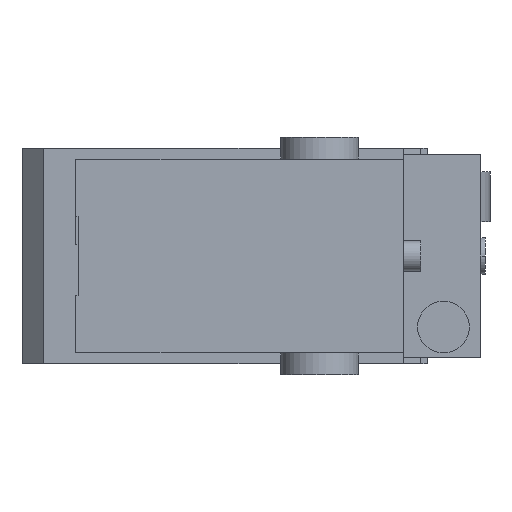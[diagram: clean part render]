
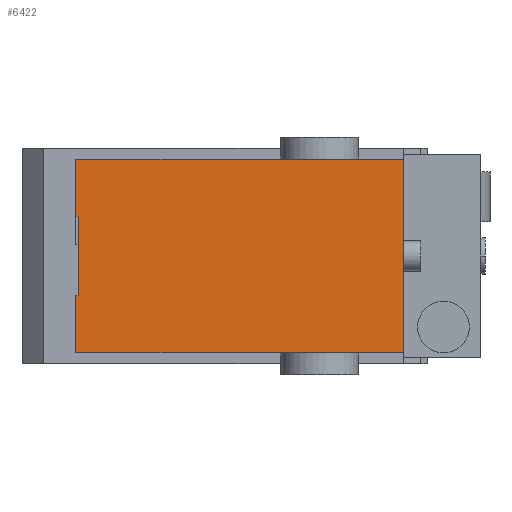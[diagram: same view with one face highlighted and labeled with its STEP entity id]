
A CAD part, front view. The second image highlights one B-rep face of the part: STEP entity #6422.
In plain terms, the highlighted planar face has unit normal (0, -1, 0).
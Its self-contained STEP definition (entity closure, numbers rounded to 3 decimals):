
#107 = CARTESIAN_POINT ( 'NONE',  ( -34.5, -183., -22.5 ) ) ;
#292 = ORIENTED_EDGE ( 'NONE', *, *, #8546, .F. ) ;
#307 = ORIENTED_EDGE ( 'NONE', *, *, #9683, .F. ) ;
#450 = ORIENTED_EDGE ( 'NONE', *, *, #5022, .F. ) ;
#671 = LINE ( 'NONE', #7035, #6961 ) ;
#687 = VECTOR ( 'NONE', #1149, 1000. ) ;
#1149 = DIRECTION ( 'NONE',  ( 0., 0., 1. ) ) ;
#1283 = PLANE ( 'NONE',  #12422 ) ;
#1324 = DIRECTION ( 'NONE',  ( 0., 0., -1. ) ) ;
#1408 = CARTESIAN_POINT ( 'NONE',  ( -34., -183., -9.25 ) ) ;
#1457 = VERTEX_POINT ( 'NONE', #1408 ) ;
#1524 = CARTESIAN_POINT ( 'NONE',  ( -34.5, -183., -22.5 ) ) ;
#1554 = VECTOR ( 'NONE', #4159, 1000. ) ;
#1681 = LINE ( 'NONE', #6191, #4972 ) ;
#1962 = DIRECTION ( 'NONE',  ( 1., 0., 0. ) ) ;
#2447 = VERTEX_POINT ( 'NONE', #5266 ) ;
#2706 = CARTESIAN_POINT ( 'NONE',  ( -34.5, -183., 9.25 ) ) ;
#2784 = LINE ( 'NONE', #7330, #10151 ) ;
#3002 = FACE_OUTER_BOUND ( 'NONE', #3597, .T. ) ;
#3058 = CARTESIAN_POINT ( 'NONE',  ( -34.5, -183., 22.5 ) ) ;
#3173 = DIRECTION ( 'NONE',  ( 0., 0., 1. ) ) ;
#3597 = EDGE_LOOP ( 'NONE', ( #450, #292, #11629, #6827, #307, #4096, #5126, #9192 ) ) ;
#3792 = EDGE_CURVE ( 'NONE', #12086, #1457, #1681, .T. ) ;
#3799 = VERTEX_POINT ( 'NONE', #3058 ) ;
#3869 = CARTESIAN_POINT ( 'NONE',  ( 41.5, -183., 22.5 ) ) ;
#4096 = ORIENTED_EDGE ( 'NONE', *, *, #7236, .F. ) ;
#4159 = DIRECTION ( 'NONE',  ( 1., 0., 0. ) ) ;
#4433 = CARTESIAN_POINT ( 'NONE',  ( 41.5, -183., -22.5 ) ) ;
#4658 = VERTEX_POINT ( 'NONE', #3869 ) ;
#4890 = EDGE_CURVE ( 'NONE', #4658, #9930, #671, .T. ) ;
#4972 = VECTOR ( 'NONE', #1962, 1000. ) ;
#5022 = EDGE_CURVE ( 'NONE', #5700, #12086, #9697, .T. ) ;
#5126 = ORIENTED_EDGE ( 'NONE', *, *, #9545, .F. ) ;
#5177 = VECTOR ( 'NONE', #10164, 1000. ) ;
#5266 = CARTESIAN_POINT ( 'NONE',  ( -34., -183., 9.25 ) ) ;
#5700 = VERTEX_POINT ( 'NONE', #8630 ) ;
#6072 = LINE ( 'NONE', #9797, #687 ) ;
#6138 = CARTESIAN_POINT ( 'NONE',  ( -34.5, -183., 22.5 ) ) ;
#6191 = CARTESIAN_POINT ( 'NONE',  ( -34.5, -183., -9.25 ) ) ;
#6341 = LINE ( 'NONE', #6138, #1554 ) ;
#6422 = ADVANCED_FACE ( 'NONE', ( #3002 ), #1283, .F. ) ;
#6816 = DIRECTION ( 'NONE',  ( -1., 0., 0. ) ) ;
#6827 = ORIENTED_EDGE ( 'NONE', *, *, #11626, .F. ) ;
#6852 = VERTEX_POINT ( 'NONE', #7692 ) ;
#6961 = VECTOR ( 'NONE', #1324, 1000. ) ;
#7035 = CARTESIAN_POINT ( 'NONE',  ( 41.5, -183., -22.5 ) ) ;
#7166 = LINE ( 'NONE', #2706, #9439 ) ;
#7236 = EDGE_CURVE ( 'NONE', #2447, #6852, #7166, .T. ) ;
#7330 = CARTESIAN_POINT ( 'NONE',  ( -34., -183., -9.25 ) ) ;
#7692 = CARTESIAN_POINT ( 'NONE',  ( -34.5, -183., 9.25 ) ) ;
#7963 = CARTESIAN_POINT ( 'NONE',  ( 3.5, -183., 0. ) ) ;
#8546 = EDGE_CURVE ( 'NONE', #9930, #5700, #12369, .T. ) ;
#8630 = CARTESIAN_POINT ( 'NONE',  ( -34.5, -183., -22.5 ) ) ;
#8953 = DIRECTION ( 'NONE',  ( 0., 1., 0. ) ) ;
#9192 = ORIENTED_EDGE ( 'NONE', *, *, #3792, .F. ) ;
#9438 = DIRECTION ( 'NONE',  ( -1., 0., 0. ) ) ;
#9439 = VECTOR ( 'NONE', #9438, 1000. ) ;
#9545 = EDGE_CURVE ( 'NONE', #1457, #2447, #2784, .T. ) ;
#9683 = EDGE_CURVE ( 'NONE', #6852, #3799, #6072, .T. ) ;
#9697 = LINE ( 'NONE', #1524, #5177 ) ;
#9797 = CARTESIAN_POINT ( 'NONE',  ( -34.5, -183., 9.25 ) ) ;
#9930 = VERTEX_POINT ( 'NONE', #4433 ) ;
#10151 = VECTOR ( 'NONE', #12224, 1000. ) ;
#10164 = DIRECTION ( 'NONE',  ( 0., 0., 1. ) ) ;
#10366 = VECTOR ( 'NONE', #6816, 1000. ) ;
#11626 = EDGE_CURVE ( 'NONE', #3799, #4658, #6341, .T. ) ;
#11629 = ORIENTED_EDGE ( 'NONE', *, *, #4890, .F. ) ;
#11865 = CARTESIAN_POINT ( 'NONE',  ( -34.5, -183., -9.25 ) ) ;
#12086 = VERTEX_POINT ( 'NONE', #11865 ) ;
#12224 = DIRECTION ( 'NONE',  ( 0., 0., 1. ) ) ;
#12369 = LINE ( 'NONE', #107, #10366 ) ;
#12422 = AXIS2_PLACEMENT_3D ( 'NONE', #7963, #8953, #3173 ) ;
